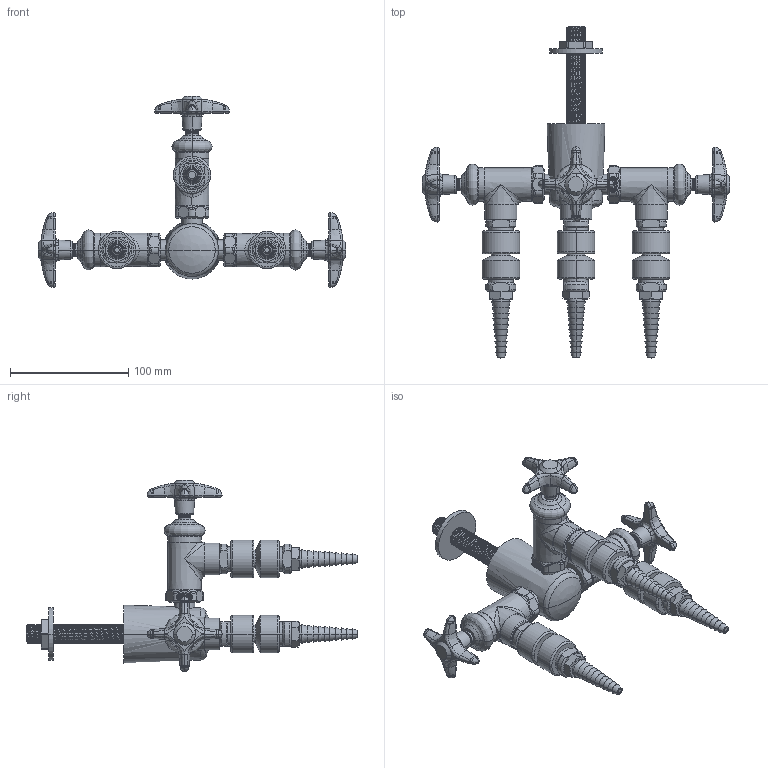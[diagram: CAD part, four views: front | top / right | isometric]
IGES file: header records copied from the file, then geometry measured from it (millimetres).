
Start section:  PTC IGES file: LWV2-C42-30.igs
Global section: file name: LWV2-C42-30.igs; native system: Creo Parametric by PTC Inc.; preprocessor: 2014500; author: usch_engrender; organization: Unknown; date: 20151124.122221; units: inch
Bounding box: 259.77 x 280.82 x 161.59 mm (x, y, z)
Volume: 434209.9 mm3; surface area: 117279.1 mm2
Topology: 1 solids, 8 shells, 1946 faces, 4521 edges, 2681 vertices
Faces by surface type: bspline 1011, revolution 935
